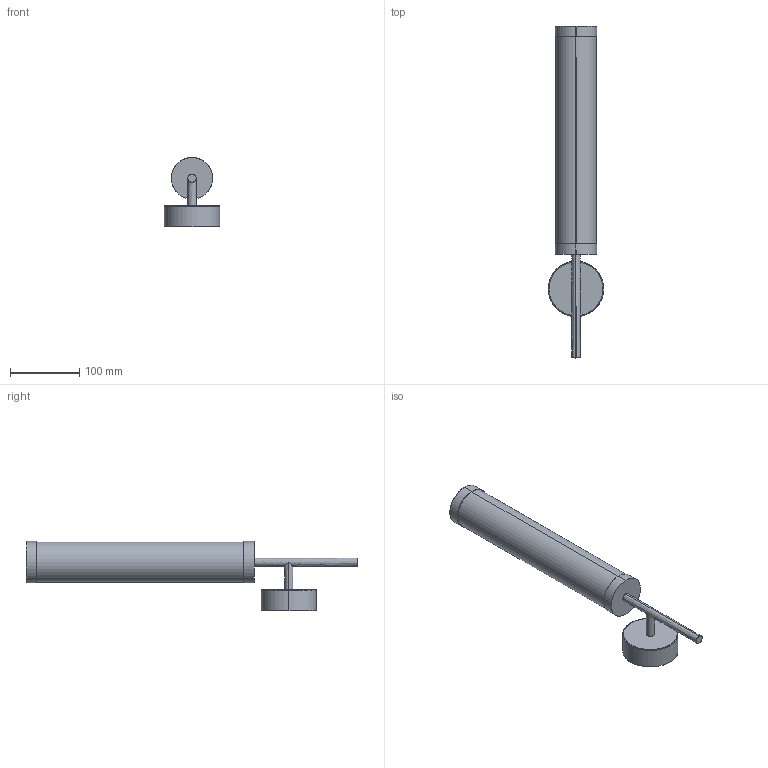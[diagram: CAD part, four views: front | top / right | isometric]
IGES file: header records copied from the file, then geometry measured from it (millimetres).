
Start section: SolidWorks IGES file using analytic representation for surfaces
Global section: file name: C:\Users\Agustin\Desktop\ENERO 2025\ISON OPAL\NUMU_A1343.IGS; native system: SolidWorks 2018; preprocessor: SolidWorks 2018; author: Agustin; date: 250826.100032; units: millimetre
Bounding box: 80 x 480 x 100 mm (x, y, z)
Surface area: 101385 mm2 (no closed solid volume)
Topology: 0 solids, 0 shells, 24 faces, 736 edges, 736 vertices
Faces by surface type: bspline 12, revolution 12
